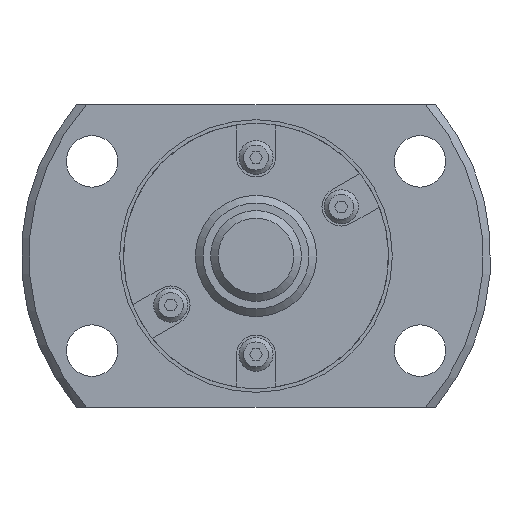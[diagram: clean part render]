
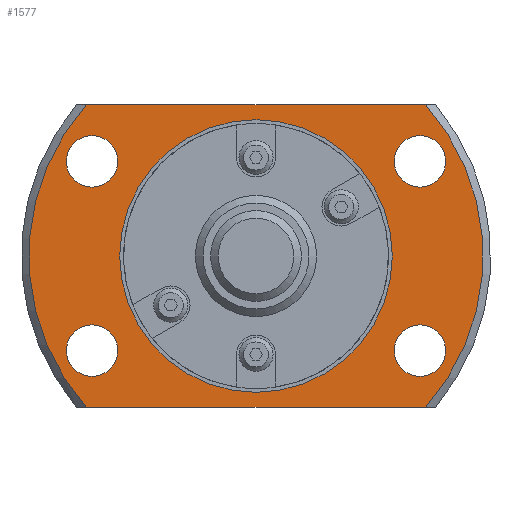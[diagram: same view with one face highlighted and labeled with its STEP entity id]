
A CAD part, left-side view. The second image highlights one B-rep face of the part: STEP entity #1577.
In plain terms, the highlighted planar face has unit normal (-1, 0, 0).
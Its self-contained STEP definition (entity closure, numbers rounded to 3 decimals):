
#102=CIRCLE('',#1724,15.);
#123=CIRCLE('',#1753,8.75);
#124=CIRCLE('',#1755,1.7);
#125=CIRCLE('',#1756,1.7);
#126=CIRCLE('',#1757,1.7);
#127=CIRCLE('',#1758,1.7);
#128=CIRCLE('',#1759,15.);
#294=ORIENTED_EDGE('',*,*,#665,.T.);
#295=ORIENTED_EDGE('',*,*,#666,.T.);
#296=ORIENTED_EDGE('',*,*,#667,.T.);
#297=ORIENTED_EDGE('',*,*,#668,.T.);
#298=ORIENTED_EDGE('',*,*,#622,.F.);
#299=ORIENTED_EDGE('',*,*,#669,.T.);
#300=ORIENTED_EDGE('',*,*,#670,.F.);
#301=ORIENTED_EDGE('',*,*,#671,.T.);
#302=ORIENTED_EDGE('',*,*,#664,.T.);
#622=EDGE_CURVE('',#821,#822,#102,.T.);
#664=EDGE_CURVE('',#858,#858,#123,.T.);
#665=EDGE_CURVE('',#859,#859,#124,.T.);
#666=EDGE_CURVE('',#860,#860,#125,.T.);
#667=EDGE_CURVE('',#861,#861,#126,.T.);
#668=EDGE_CURVE('',#862,#862,#127,.T.);
#669=EDGE_CURVE('',#821,#863,#970,.T.);
#670=EDGE_CURVE('',#864,#863,#128,.T.);
#671=EDGE_CURVE('',#864,#822,#971,.T.);
#821=VERTEX_POINT('',#2481);
#822=VERTEX_POINT('',#2483);
#858=VERTEX_POINT('',#2578);
#859=VERTEX_POINT('',#2581);
#860=VERTEX_POINT('',#2583);
#861=VERTEX_POINT('',#2585);
#862=VERTEX_POINT('',#2587);
#863=VERTEX_POINT('',#2589);
#864=VERTEX_POINT('',#2591);
#970=LINE('',#2588,#1092);
#971=LINE('',#2592,#1093);
#1092=VECTOR('',#2081,1000.);
#1093=VECTOR('',#2084,1000.);
#1221=EDGE_LOOP('',(#294));
#1222=EDGE_LOOP('',(#295));
#1223=EDGE_LOOP('',(#296));
#1224=EDGE_LOOP('',(#297));
#1225=EDGE_LOOP('',(#298,#299,#300,#301));
#1226=EDGE_LOOP('',(#302));
#1379=FACE_BOUND('',#1221,.T.);
#1380=FACE_BOUND('',#1222,.T.);
#1381=FACE_BOUND('',#1223,.T.);
#1382=FACE_BOUND('',#1224,.T.);
#1383=FACE_BOUND('',#1225,.T.);
#1384=FACE_BOUND('',#1226,.T.);
#1496=PLANE('',#1754);
#1577=ADVANCED_FACE('',(#1379,#1380,#1381,#1382,#1383,#1384),#1496,.F.);
#1724=AXIS2_PLACEMENT_3D('',#2482,#1993,#1994);
#1753=AXIS2_PLACEMENT_3D('',#2577,#2069,#2070);
#1754=AXIS2_PLACEMENT_3D('',#2579,#2071,#2072);
#1755=AXIS2_PLACEMENT_3D('',#2580,#2073,#2074);
#1756=AXIS2_PLACEMENT_3D('',#2582,#2075,#2076);
#1757=AXIS2_PLACEMENT_3D('',#2584,#2077,#2078);
#1758=AXIS2_PLACEMENT_3D('',#2586,#2079,#2080);
#1759=AXIS2_PLACEMENT_3D('',#2590,#2082,#2083);
#1993=DIRECTION('',(1.,0.,0.));
#1994=DIRECTION('',(0.,0.,-1.));
#2069=DIRECTION('',(1.,0.,0.));
#2070=DIRECTION('',(0.,0.,-1.));
#2071=DIRECTION('',(1.,0.,0.));
#2072=DIRECTION('',(0.,0.,-1.));
#2073=DIRECTION('',(1.,0.,0.));
#2074=DIRECTION('',(0.,0.,-1.));
#2075=DIRECTION('',(1.,0.,0.));
#2076=DIRECTION('',(0.,0.,-1.));
#2077=DIRECTION('',(1.,0.,0.));
#2078=DIRECTION('',(0.,0.,-1.));
#2079=DIRECTION('',(1.,0.,0.));
#2080=DIRECTION('',(0.,0.,-1.));
#2081=DIRECTION('',(0.,-1.,0.));
#2082=DIRECTION('',(1.,0.,0.));
#2083=DIRECTION('',(0.,0.,-1.));
#2084=DIRECTION('',(0.,1.,0.));
#2481=CARTESIAN_POINT('',(17.,11.18,-10.));
#2482=CARTESIAN_POINT('',(17.,0.,0.));
#2483=CARTESIAN_POINT('',(17.,11.18,10.));
#2577=CARTESIAN_POINT('',(17.,0.,0.));
#2578=CARTESIAN_POINT('',(17.,0.,-8.75));
#2579=CARTESIAN_POINT('',(17.,8.75,0.));
#2580=CARTESIAN_POINT('',(17.,-10.825,-6.25));
#2581=CARTESIAN_POINT('',(17.,-10.825,-7.95));
#2582=CARTESIAN_POINT('',(17.,-10.825,6.25));
#2583=CARTESIAN_POINT('',(17.,-10.825,4.55));
#2584=CARTESIAN_POINT('',(17.,10.825,-6.25));
#2585=CARTESIAN_POINT('',(17.,10.825,-7.95));
#2586=CARTESIAN_POINT('',(17.,10.825,6.25));
#2587=CARTESIAN_POINT('',(17.,10.825,4.55));
#2588=CARTESIAN_POINT('',(17.,8.75,-10.));
#2589=CARTESIAN_POINT('',(17.,-11.18,-10.));
#2590=CARTESIAN_POINT('',(17.,0.,0.));
#2591=CARTESIAN_POINT('',(17.,-11.18,10.));
#2592=CARTESIAN_POINT('',(17.,8.75,10.));
